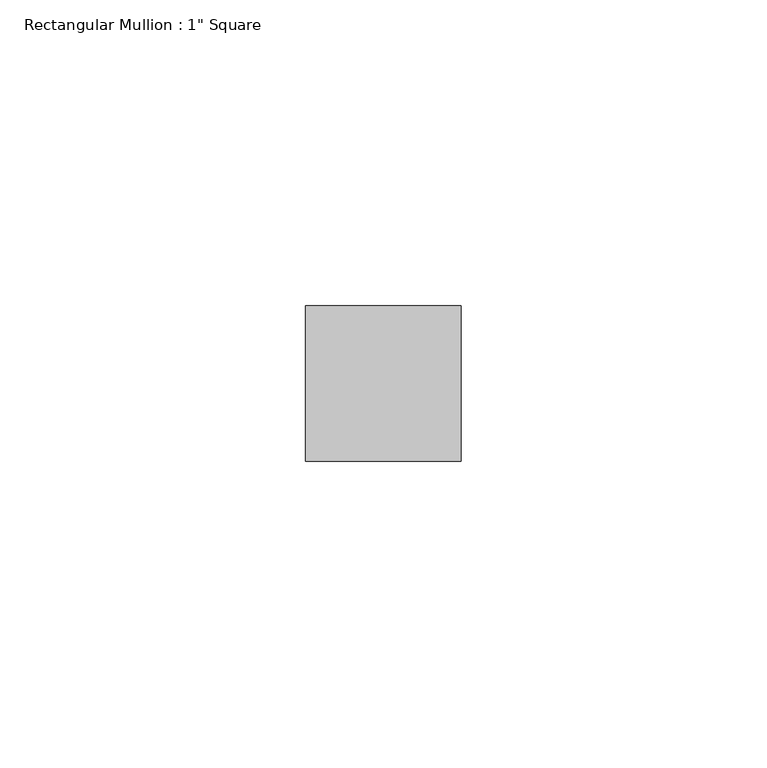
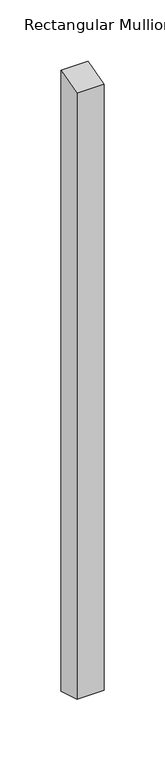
"""IFC4 building model written with IfcOpenShell, lengths in millimetres: member geometry."""

from ifc_helpers import new_model, si_unit, frame, origin, place, context, project, spatial, polyline, outline, extrude, source, transform, mapped, element, save


def member_8c9da58c(model_context):
    return source(origin(), model_context, "Body", "SweptSolid", [
        extrude(outline(polyline([(-12.7, -3.7084403), (12.7, 3.7084403), (12.7, -613.3084403), (-12.7, -605.8915597), (-12.7, -3.7084403)])), frame((-12.7, 0.0, 0.0), z_axis=(1.0, 0.0, 0.0), x_axis=(0.0, 1.0, 0.0)), (0.0, 0.0, 1.0), 25.4),
    ])


if __name__ == "__main__":
    model = new_model("IFC4")
    model_context = context("Model", 3, world=origin())
    ifc_project = project(units=[si_unit("LENGTHUNIT", "METRE", prefix="MILLI")], contexts=[model_context])
    site = spatial("IfcSite", under=ifc_project)
    building = spatial("IfcBuilding", under=site)
    placement = place(None, origin())
    member_shape = member_8c9da58c(model_context)
    element("IfcMember", 1, ObjectType="Rectangular Mullion : 1\" Square", at=placement, inside=building, context=model_context, shape_type="MappedRepresentation", body=[
        mapped(member_shape, transform((0.0, 0.0, 0.0), x_axis=(1.0, 0.0, 0.0), y_axis=(0.0, 1.0, 0.0), z_axis=(0.0, 0.0, 1.0))),
    ])
    save(model, "model.ifc")
